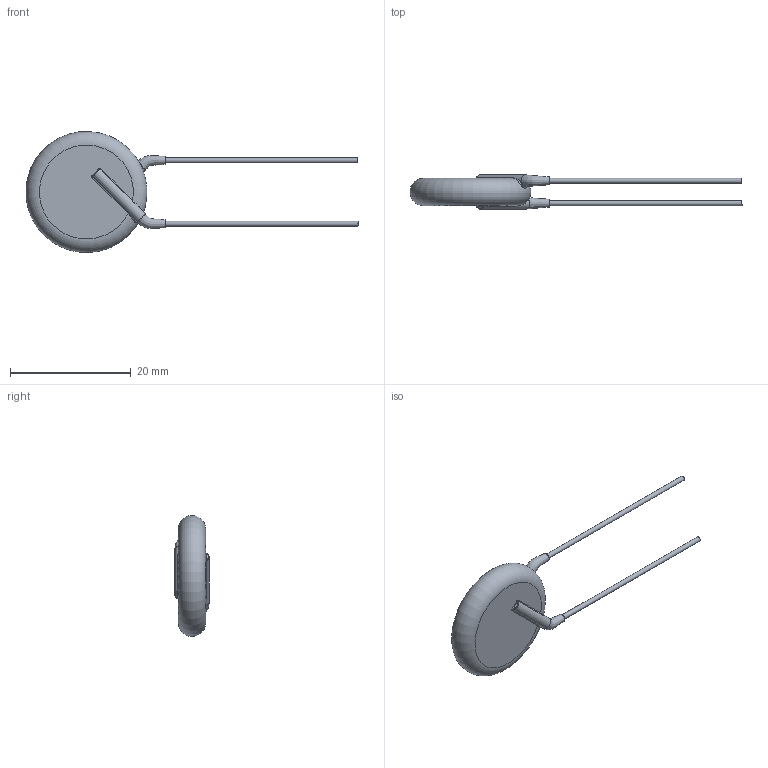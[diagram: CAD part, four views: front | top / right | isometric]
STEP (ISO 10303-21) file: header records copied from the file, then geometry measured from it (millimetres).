
FILE_DESCRIPTION(/* description */ (''),/* implementation_level */ '2;1');
FILE_NAME(/* name */ 'I:\Marketing\M6t1\3D-Models\Zchng-Werk-3\Upload for homepage\Ceramite\Y5U\440LD90-R\440LD90-R.stp',/* time_stamp */ '2016-11-10T15:03:31+01:00',/* author */ ('sheinrich'),/* organization */ (''),/* preprocessor_version */ 'ST-DEVELOPER v16.1',/* originating_system */ 'Autodesk Inventor 2016',/* authorisation */ '');
FILE_SCHEMA (('AUTOMOTIVE_DESIGN { 1 0 10303 214 3 1 1 }'));
Length unit declared in the file: millimetre
Products named in the file (1): 440LD90-R
Bounding box: 55.07 x 5.7 x 20.06 mm (x, y, z)
Volume: 1372.9 mm3; surface area: 1017.2 mm2
Topology: 1 solids, 1 shells, 39 faces, 84 edges, 45 vertices
Faces by surface type: bspline 12, cylinder 12, plane 8, torus 7
Full cylindrical faces by diameter (mm): 0.81 x2
Entity records: 1982 total; most frequent: CARTESIAN_POINT 1165, ORIENTED_EDGE 152, DIRECTION 144, EDGE_CURVE 76, AXIS2_PLACEMENT_3D 66, EDGE_LOOP 44, VERTEX_POINT 44, STYLED_ITEM 40
